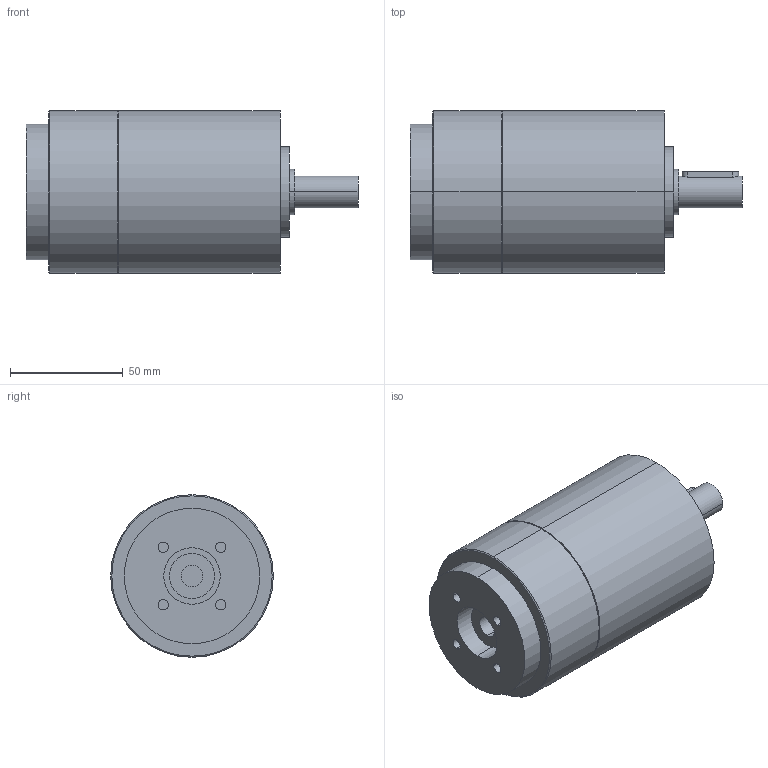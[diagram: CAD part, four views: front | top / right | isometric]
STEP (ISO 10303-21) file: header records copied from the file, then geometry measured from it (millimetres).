
FILE_DESCRIPTION(('CoCreate Modeling STEP Export'),'2;1');
FILE_NAME('GPT75_ig-9-12-16-20-25-28-35-40-50-70-100_14_B14T_9.52_P19.stp','2014-08-27T13:24:57',(''),(''),'CoCreate Modeling STEP processor for AP214 (Solid Model)','CoCreate Modeling 16.00C 25-Feb-2009 (C) Parametric Technology GmbH','');
FILE_SCHEMA(('AUTOMOTIVE_DESIGN { 1 0 10303 214 1 1 1 1 }'));
Length unit declared in the file: millimetre
Products named in the file (2): GPT75_ig-9-12-16-20-25-28-35-40-50-70-100_14_B14T_9.52_P19
Assembly tree (1 placements, depth 2):
  GPT75_ig-9-12-16-20-25-28-35-40-50-70-100_14_B14T_9.52_P19
    GPT75_ig-9-12-16-20-25-28-35-40-50-70-100_14_B14T_9.52_P19
Bounding box: 147 x 72 x 72 mm (x, y, z)
Volume: 448181.9 mm3; surface area: 38671.2 mm2
Topology: 1 solids, 1 shells, 64 faces, 142 edges, 97 vertices
Faces by surface type: cylinder 38, plane 22, cone 4
Entity records: 1878 total; most frequent: CARTESIAN_POINT 614, ORIENTED_EDGE 284, DIRECTION 210, EDGE_CURVE 142, VERTEX_POINT 97, AXIS2_PLACEMENT_3D 81, EDGE_LOOP 81, FACE_OUTER_BOUND 64
